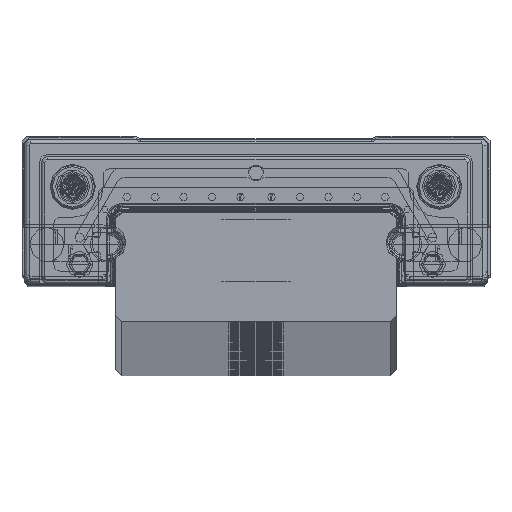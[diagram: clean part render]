
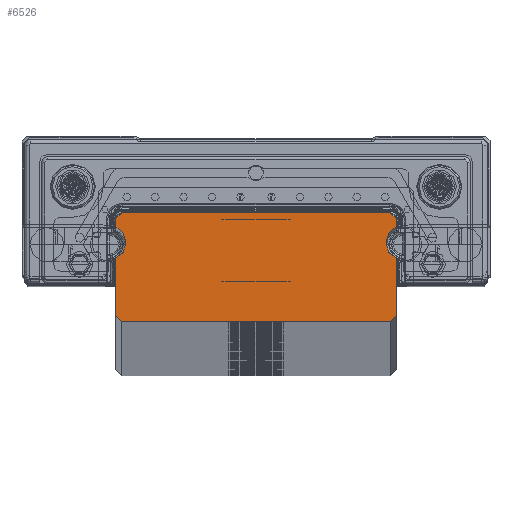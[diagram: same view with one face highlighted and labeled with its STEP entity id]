
A CAD part, top view. The second image highlights one B-rep face of the part: STEP entity #6526.
In plain terms, the highlighted planar face has unit normal (0, 0, 1).
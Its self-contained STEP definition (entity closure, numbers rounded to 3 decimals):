
#1=DIRECTION('',(0.,-1.,0.));
#2=VECTOR('',#1,0.517);
#3=CARTESIAN_POINT('',(-8.98,1.55,0.));
#4=LINE('',#3,#2);
#5=DIRECTION('',(-0.707,-0.707,0.));
#6=VECTOR('',#5,0.566);
#7=CARTESIAN_POINT('',(-8.58,1.95,0.));
#8=LINE('',#7,#6);
#9=DIRECTION('',(-1.,0.,0.));
#10=VECTOR('',#9,17.16);
#11=CARTESIAN_POINT('',(8.58,1.95,0.));
#12=LINE('',#11,#10);
#13=DIRECTION('',(-0.707,0.707,0.));
#14=VECTOR('',#13,0.566);
#15=CARTESIAN_POINT('',(8.98,1.55,0.));
#16=LINE('',#15,#14);
#17=DIRECTION('',(0.,1.,0.));
#18=VECTOR('',#17,0.517);
#19=CARTESIAN_POINT('',(8.98,1.033,0.));
#20=LINE('',#19,#18);
#21=DIRECTION('',(0.,1.,0.));
#22=VECTOR('',#21,3.607);
#23=CARTESIAN_POINT('',(9.,-4.65,0.));
#24=LINE('',#23,#22);
#25=DIRECTION('',(0.707,0.707,0.));
#26=VECTOR('',#25,0.566);
#27=CARTESIAN_POINT('',(8.6,-5.05,0.));
#28=LINE('',#27,#26);
#29=DIRECTION('',(0.707,-0.707,0.));
#30=VECTOR('',#29,0.566);
#31=CARTESIAN_POINT('',(-9.,-4.65,0.));
#32=LINE('',#31,#30);
#33=DIRECTION('',(0.,-1.,0.));
#34=VECTOR('',#33,3.607);
#35=CARTESIAN_POINT('',(-9.,-1.043,0.));
#36=LINE('',#35,#34);
#41=CARTESIAN_POINT('',(-9.485,0.,0.));
#42=DIRECTION('',(0.,0.,-1.));
#43=DIRECTION('',(0.439,0.898,0.));
#44=AXIS2_PLACEMENT_3D('',#41,#42,#43);
#67=DIRECTION('',(1.,0.,0.));
#68=VECTOR('',#67,17.2);
#69=CARTESIAN_POINT('',(-8.6,-5.05,0.));
#70=LINE('',#69,#68);
#794=CARTESIAN_POINT('',(9.485,0.,0.));
#795=DIRECTION('',(0.,0.,-1.));
#796=DIRECTION('',(-0.422,-0.907,0.));
#797=AXIS2_PLACEMENT_3D('',#794,#795,#796);
#5107=CARTESIAN_POINT('',(-8.58,1.95,0.));
#5108=CARTESIAN_POINT('',(-8.98,1.55,0.));
#5109=VERTEX_POINT('',#5107);
#5110=VERTEX_POINT('',#5108);
#5111=CARTESIAN_POINT('',(8.98,1.55,0.));
#5112=CARTESIAN_POINT('',(8.58,1.95,0.));
#5113=VERTEX_POINT('',#5111);
#5114=VERTEX_POINT('',#5112);
#5115=CARTESIAN_POINT('',(8.6,-5.05,0.));
#5116=CARTESIAN_POINT('',(9.,-4.65,0.));
#5117=VERTEX_POINT('',#5115);
#5118=VERTEX_POINT('',#5116);
#5119=CARTESIAN_POINT('',(-9.,-4.65,0.));
#5120=CARTESIAN_POINT('',(-8.6,-5.05,0.));
#5121=VERTEX_POINT('',#5119);
#5122=VERTEX_POINT('',#5120);
#6479=CARTESIAN_POINT('',(-8.98,1.033,0.));
#6480=VERTEX_POINT('',#6479);
#6481=CARTESIAN_POINT('',(8.98,1.033,0.));
#6482=VERTEX_POINT('',#6481);
#6483=CARTESIAN_POINT('',(9.,-1.043,0.));
#6484=VERTEX_POINT('',#6483);
#6485=CARTESIAN_POINT('',(-9.,-1.043,0.));
#6486=VERTEX_POINT('',#6485);
#6495=CARTESIAN_POINT('',(0.,0.,0.));
#6496=DIRECTION('',(0.,0.,1.));
#6497=DIRECTION('',(1.,0.,0.));
#6498=AXIS2_PLACEMENT_3D('',#6495,#6496,#6497);
#6499=PLANE('',#6498);
#6501=ORIENTED_EDGE('',*,*,#6500,.F.);
#6503=ORIENTED_EDGE('',*,*,#6502,.F.);
#6505=ORIENTED_EDGE('',*,*,#6504,.F.);
#6507=ORIENTED_EDGE('',*,*,#6506,.F.);
#6509=ORIENTED_EDGE('',*,*,#6508,.F.);
#6511=ORIENTED_EDGE('',*,*,#6510,.F.);
#6513=ORIENTED_EDGE('',*,*,#6512,.F.);
#6515=ORIENTED_EDGE('',*,*,#6514,.F.);
#6517=ORIENTED_EDGE('',*,*,#6516,.F.);
#6519=ORIENTED_EDGE('',*,*,#6518,.F.);
#6521=ORIENTED_EDGE('',*,*,#6520,.F.);
#6523=ORIENTED_EDGE('',*,*,#6522,.F.);
#6524=EDGE_LOOP('',(#6501,#6503,#6505,#6507,#6509,#6511,#6513,#6515,#6517,#6519,
#6521,#6523));
#6525=FACE_OUTER_BOUND('',#6524,.F.);
#6526=ADVANCED_FACE('',(#6525),#6499,.T.);
#45=CIRCLE('',#44,1.15);
#798=CIRCLE('',#797,1.15);
#6500=EDGE_CURVE('',#5110,#6480,#4,.T.);
#6502=EDGE_CURVE('',#5109,#5110,#8,.T.);
#6504=EDGE_CURVE('',#5114,#5109,#12,.T.);
#6506=EDGE_CURVE('',#5113,#5114,#16,.T.);
#6508=EDGE_CURVE('',#6482,#5113,#20,.T.);
#6510=EDGE_CURVE('',#6484,#6482,#798,.T.);
#6512=EDGE_CURVE('',#5118,#6484,#24,.T.);
#6514=EDGE_CURVE('',#5117,#5118,#28,.T.);
#6516=EDGE_CURVE('',#5122,#5117,#70,.T.);
#6518=EDGE_CURVE('',#5121,#5122,#32,.T.);
#6520=EDGE_CURVE('',#6486,#5121,#36,.T.);
#6522=EDGE_CURVE('',#6480,#6486,#45,.T.);
